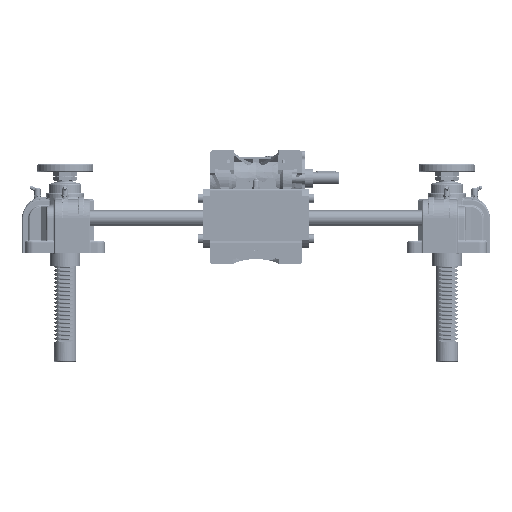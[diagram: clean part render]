
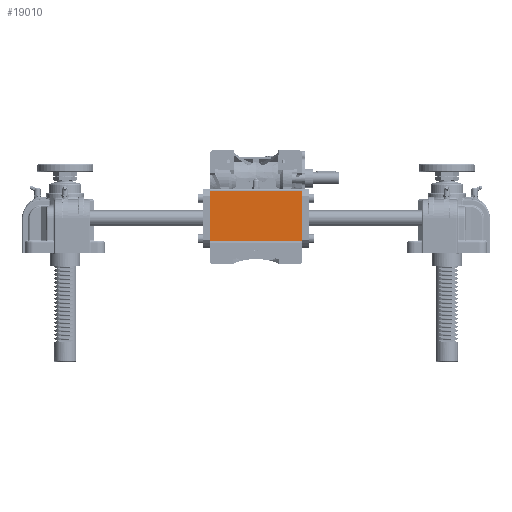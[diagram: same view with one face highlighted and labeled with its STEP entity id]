
A CAD part, front view. The second image highlights one B-rep face of the part: STEP entity #19010.
In plain terms, the highlighted planar face has unit normal (0, -1, 0).
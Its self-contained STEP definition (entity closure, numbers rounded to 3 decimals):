
#19010=ADVANCED_FACE('',(#47363),#47364,.T.);
#47363=FACE_OUTER_BOUND('',#93531,.T.);
#47364=PLANE('',#93532);
#93531=EDGE_LOOP('',(#201318,#201319,#201320,#201321));
#93532=AXIS2_PLACEMENT_3D('',#201322,#201323,#201324);
#201318=ORIENTED_EDGE('',*,*,#263031,.F.);
#201319=ORIENTED_EDGE('',*,*,#263032,.F.);
#201320=ORIENTED_EDGE('',*,*,#263033,.T.);
#201321=ORIENTED_EDGE('',*,*,#262985,.F.);
#201322=CARTESIAN_POINT('',(0.,-47.0,96.5));
#201323=DIRECTION('',(0.0,-1.0,0.0));
#201324=DIRECTION('',(0.0,0.0,-1.0));
#262985=EDGE_CURVE('',#326952,#326954,#326955,.T.);
#263031=EDGE_CURVE('',#327041,#326952,#327042,.T.);
#263032=EDGE_CURVE('',#327043,#327041,#327044,.T.);
#263033=EDGE_CURVE('',#327043,#326954,#327045,.T.);
#326952=VERTEX_POINT('',#443161);
#326954=VERTEX_POINT('',#443163);
#326955=LINE('',#443164,#443165);
#327041=VERTEX_POINT('',#443280);
#327042=LINE('',#443281,#443282);
#327043=VERTEX_POINT('',#443283);
#327044=LINE('',#443284,#443285);
#327045=LINE('',#443286,#443287);
#443161=CARTESIAN_POINT('',(73.0,-47.0,14.0));
#443163=CARTESIAN_POINT('',(-73.0,-47.0,14.0));
#443164=CARTESIAN_POINT('',(0.0,-47.0,14.0));
#443165=VECTOR('',#506284,1.0);
#443280=CARTESIAN_POINT('',(73.0,-47.0,93.5));
#443281=CARTESIAN_POINT('',(73.0,-47.0,53.75));
#443282=VECTOR('',#506362,1.0);
#443283=CARTESIAN_POINT('',(-73.0,-47.0,93.5));
#443284=CARTESIAN_POINT('',(0.,-47.0,93.5));
#443285=VECTOR('',#506363,1.0);
#443286=CARTESIAN_POINT('',(-73.0,-47.0,53.75));
#443287=VECTOR('',#506364,1.0);
#506284=DIRECTION('',(-1.0,0.0,0.));
#506362=DIRECTION('',(0.,0.0,-1.0));
#506363=DIRECTION('',(1.0,0.0,0.));
#506364=DIRECTION('',(0.,0.0,-1.0));
